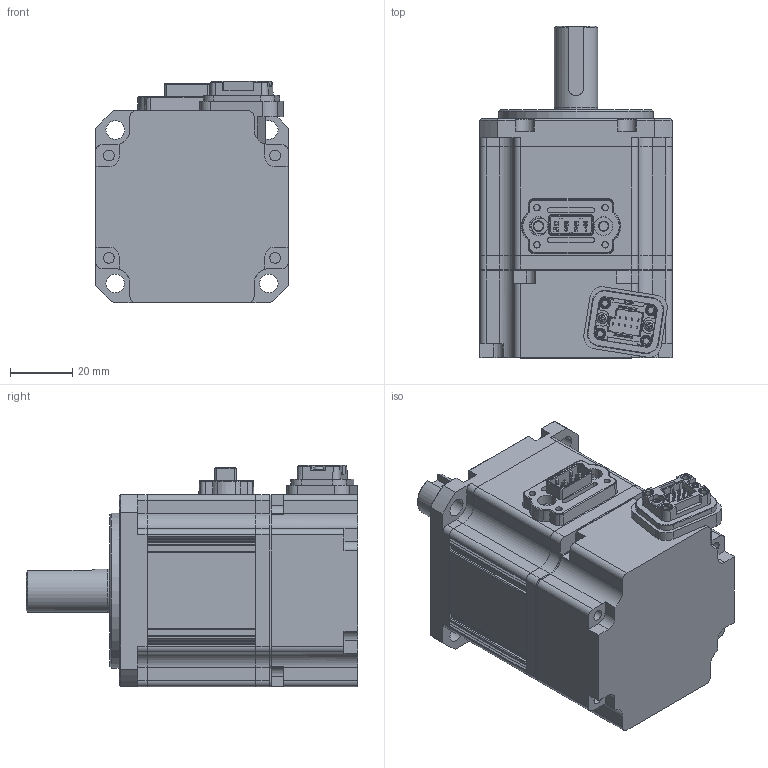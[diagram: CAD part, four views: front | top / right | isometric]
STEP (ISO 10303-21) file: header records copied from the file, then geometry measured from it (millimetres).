
FILE_DESCRIPTION(/* description */ (''),/* implementation_level */ '2;1');
FILE_NAME(/* name */ '\\EMN0D5F01\rp_inventor\RP Mechanical Design\P Series Files\P Series Step from ipt files\PM-FBL01AMK.stp',/* time_stamp */ '2015-06-05T16:56:45-07:00',/* author */ ('jb17719'),/* organization */ (''),/* preprocessor_version */ 'ST-DEVELOPER v15.2',/* originating_system */ 'Autodesk Inventor 2014',/* authorisation */ '');
FILE_SCHEMA (('AUTOMOTIVE_DESIGN { 1 0 10303 214 3 1 1 }'));
Products named in the file (1): PM-FBL01AMK.STEP
Bounding box: 62 x 107 x 71.5 mm (x, y, z)
Volume: 270189.2 mm3; surface area: 64861.4 mm2
Topology: 12 solids, 17 shells, 1494 faces, 4413 edges, 2986 vertices
Faces by surface type: plane 971, cylinder 310, bspline 137, cone 42, torus 26, sphere 8
Full cylindrical faces by diameter (mm): 0.8 x9, 1.4 x4, 2 x10, 2.1 x14, 3 x14, 3.3 x1, 3.4 x1, 3.5 x8, 3.6 x4, 6 x6, 14 x1, 15 x1, 15.3 x1, 50 x1
Entity records: 61255 total; most frequent: CARTESIAN_POINT 22470, ORIENTED_EDGE 8089, DIRECTION 7316, EDGE_CURVE 4306, LINE 3004, VECTOR 3004, VERTEX_POINT 2978, AXIS2_PLACEMENT_3D 2156
